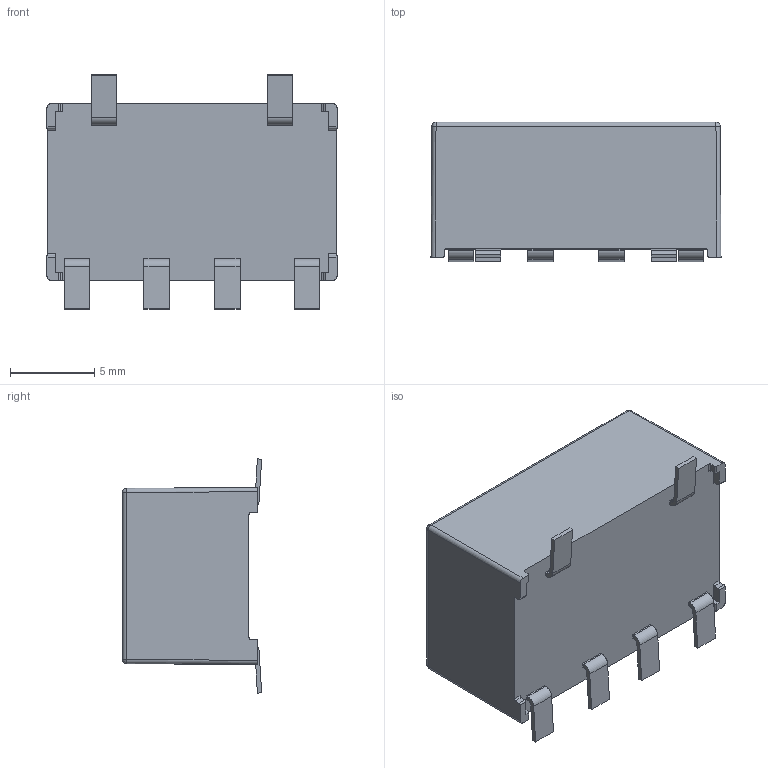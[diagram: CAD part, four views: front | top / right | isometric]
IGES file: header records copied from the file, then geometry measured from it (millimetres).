
Start section: SolidWorks IGES file using analytic representation for surfaces
Global section: file name: T:\Robert King\MARKETING\RELAY MODELS\Series 219\V4\219-2-A Website Model.IGS; native system: SolidWorks 2023; preprocessor: SolidWorks 2023; author: robert.king; date: 240410.121954; units: millimetre
Bounding box: 17.2 x 8.26 x 13.89 mm (x, y, z)
Surface area: 839.5 mm2 (no closed solid volume)
Topology: 0 solids, 0 shells, 255 faces, 1918 edges, 1914 vertices
Faces by surface type: bspline 215, revolution 40
